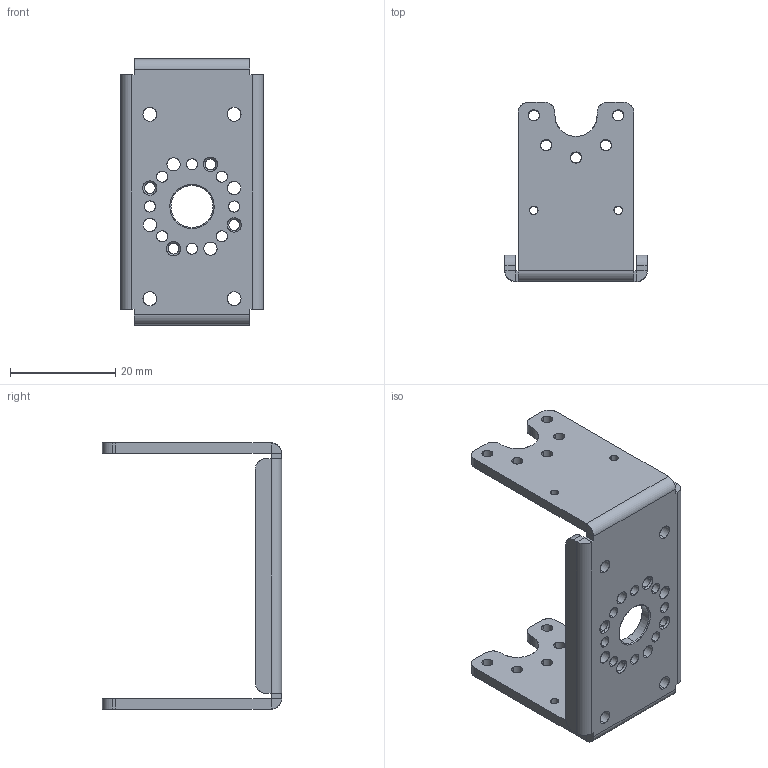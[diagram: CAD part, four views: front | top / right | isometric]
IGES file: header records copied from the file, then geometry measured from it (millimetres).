
Global section: file name: C:\Users\Knabe\Documents\Classes\8 Semester 8\DARwIn\Deliverables\DARwIn OP\DARwIn OP Part Files\OP 3D CAD Files\3D IGS\13_FR07_H120.igs; native system: NX V7.0; preprocessor: SIEMENS PLM Software NX 7.0; date: 20110525.180844; units: millimetre
Bounding box: 27 x 34 x 50.5 mm (x, y, z)
Surface area: 6450.4 mm2 (no closed solid volume)
Topology: 0 solids, 0 shells, 150 faces, 1260 edges, 1260 vertices
Faces by surface type: bspline 150
